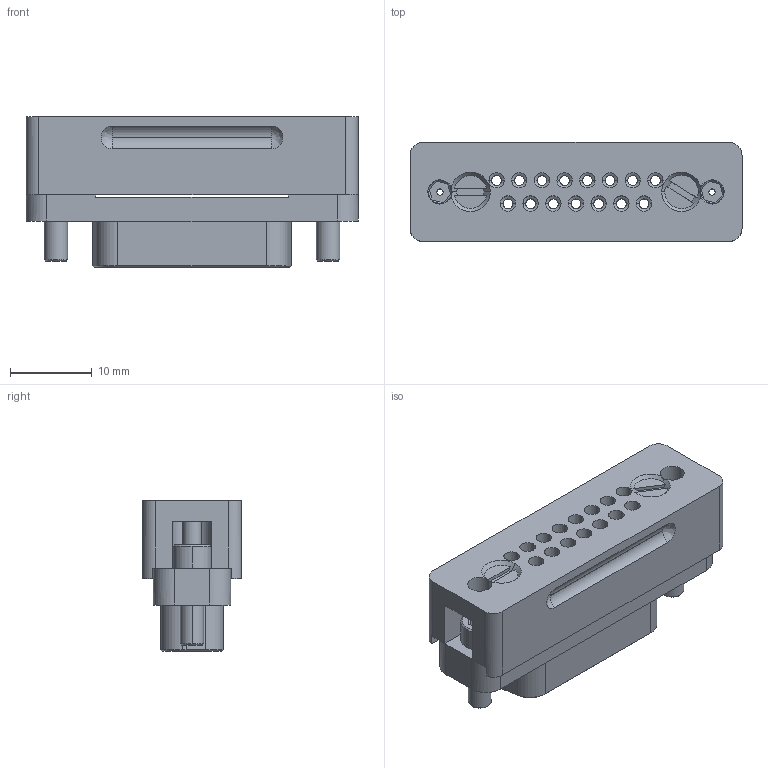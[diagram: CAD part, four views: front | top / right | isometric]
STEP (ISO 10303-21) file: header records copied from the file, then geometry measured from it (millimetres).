
FILE_DESCRIPTION (( 'STEP AP203' ), '1' );
FILE_NAME ('100450 ACCU-GLASS PRODUCTS, INC.STEP', '2010-08-19T16:55:59', ( ' ' ), ( ' ' ), 'SwSTEP 2.0', 'SolidWorks 2006004', '' );
FILE_SCHEMA (( 'CONFIG_CONTROL_DESIGN' ));
Length unit declared in the file: inch
Products named in the file (1): 100450 ACCU-GLASS PRODUCTS, INC
Bounding box: 40.51 x 12.06 x 18.41 mm (x, y, z)
Volume: 5419.6 mm3; surface area: 5519.9 mm2
Topology: 1 solids, 1 shells, 701 faces, 1915 edges, 1234 vertices
Faces by surface type: plane 241, bspline 226, cylinder 153, cone 81
Entity records: 25736 total; most frequent: CARTESIAN_POINT 9296, ORIENTED_EDGE 3830, DIRECTION 2678, EDGE_CURVE 1915, VERTEX_POINT 1234, VECTOR 940, LINE 940, AXIS2_PLACEMENT_3D 869
